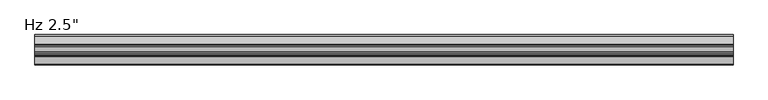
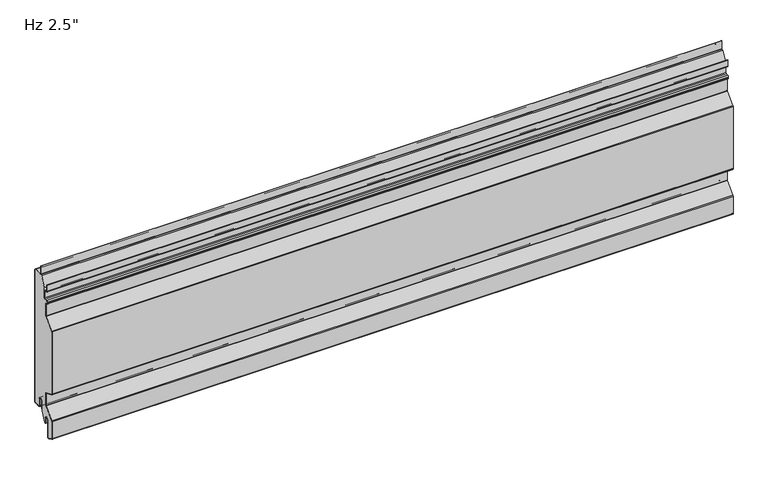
"""IFC4 building model written with IfcOpenShell, lengths in millimetres: plate geometry."""

from ifc_helpers import new_model, si_unit, point, frame, frame_2d, origin, place, context, project, spatial, polyline, circle_curve, trimmed, segment, composite_curve, outline, extrude, source, transform, mapped, element, save


def plate_447e906d(model_context):
    return source(origin(), model_context, "Body", "SweptSolid", [
        extrude(outline(composite_curve([segment(polyline([(-26.4011912, 19.05), (-26.4011912, -3.1976612), (-36.533822, -23.01875), (-38.6886912, -23.01875), (-38.6886912, -11.90625)]), True, "CONTINUOUS"), segment(trimmed(circle_curve(frame_2d((-43.6574412, -11.90625)), 4.96875), [point((-38.6886912, -11.90625))], [point((-48.6261912, -11.90625))], True, "CARTESIAN"), True, "CONTINUOUS"), segment(polyline([(-48.6261912, -11.90625), (-48.6261912, -48.8194049)]), True, "CONTINUOUS"), segment(trimmed(circle_curve(frame_2d((-50.0074412, -48.8194049)), 1.38125), [point((-48.6261912, -48.8194049))], [point((-50.5666208, -50.0824052))], False, "CARTESIAN"), True, "CONTINUOUS"), segment(polyline([(-50.5666208, -50.0824052), (-61.6779296, -45.1629946)]), True, "CONTINUOUS"), segment(trimmed(circle_curve(frame_2d((-61.11875, -43.8999943)), 1.38125), [point((-61.6779296, -45.1629946))], [point((-62.5, -43.8999943))], False, "CARTESIAN"), True, "CONTINUOUS"), segment(polyline([(-62.5, -43.8999943), (-62.5, -5.0536946)]), True, "CONTINUOUS"), segment(trimmed(circle_curve(frame_2d((-60.4012, -5.0536946)), 2.0988), [point((-62.5, -5.0536946))], [point((-61.9092077, -3.5939431))], False, "CARTESIAN"), True, "CONTINUOUS"), segment(polyline([(-61.9092077, -3.5939431), (-41.7145567, 17.2682996)]), True, "CONTINUOUS"), segment(trimmed(circle_curve(frame_2d((-43.5737, 19.0679503)), 2.5875), [point((-41.7145567, 17.2682996))], [point((-40.9862, 19.0679503))], True, "CARTESIAN"), True, "CONTINUOUS"), segment(polyline([(-40.9862, 19.0679503), (-40.9862, 45.5917981)]), True, "CONTINUOUS"), segment(trimmed(circle_curve(frame_2d((-43.5737, 45.5917981)), 2.5875), [point((-40.9862, 45.5917981))], [point((-42.5261871, 47.9577806))], True, "CARTESIAN"), True, "CONTINUOUS"), segment(polyline([(-42.5261871, 47.9577806), (-61.6779296, 56.4370054)]), True, "CONTINUOUS"), segment(trimmed(circle_curve(frame_2d((-61.11875, 57.7000057)), 1.38125), [point((-61.6779296, 56.4370054))], [point((-62.5, 57.7000057))], False, "CARTESIAN"), True, "CONTINUOUS"), segment(polyline([(-62.5, 57.7000057), (-62.5, 198.4367131)]), True, "CONTINUOUS"), segment(trimmed(circle_curve(frame_2d((-61.11875, 198.4367131)), 1.38125), [point((-62.5, 198.4367131))], [point((-62.1111912, 199.3973962))], False, "CARTESIAN"), True, "CONTINUOUS"), segment(polyline([(-62.1111912, 199.3973962), (-41.7145567, 220.4682996)]), True, "CONTINUOUS"), segment(trimmed(circle_curve(frame_2d((-43.5737, 222.2679503)), 2.5875), [point((-41.7145567, 220.4682996))], [point((-40.9862, 222.2679503))], True, "CARTESIAN"), True, "CONTINUOUS"), segment(polyline([(-40.9862, 222.2679503), (-40.9862, 248.7917981)]), True, "CONTINUOUS"), segment(trimmed(circle_curve(frame_2d((-43.5737, 248.7917981)), 2.5875), [point((-40.9862, 248.7917981))], [point((-42.5261871, 251.1577806))], True, "CARTESIAN"), True, "CONTINUOUS"), segment(polyline([(-42.5261871, 251.1577806), (-44.2166208, 251.9062016)]), True, "CONTINUOUS"), segment(trimmed(circle_curve(frame_2d((-43.6574412, 253.1692019)), 1.38125), [point((-44.2166208, 251.9062016))], [point((-45.0386912, 253.1692019))], False, "CARTESIAN"), True, "CONTINUOUS"), segment(polyline([(-45.0386912, 253.1692019), (-45.0386912, 255.4967085)]), True, "CONTINUOUS"), segment(trimmed(circle_curve(frame_2d((-43.6574412, 255.4967085)), 1.38125), [point((-45.0386912, 255.4967085))], [point((-43.7297302, 256.8760655))], False, "CARTESIAN"), True, "CONTINUOUS"), segment(polyline([(-43.7297302, 256.8760655), (-37.9657719, 257.1781418)]), True, "CONTINUOUS"), segment(trimmed(circle_curve(frame_2d((-38.1011912, 259.7620957)), 2.5875), [point((-37.9657719, 257.1781418))], [point((-35.5136912, 259.7620957))], True, "CARTESIAN"), True, "CONTINUOUS"), segment(polyline([(-35.5136912, 259.7620957), (-35.5136912, 282.1892934), (-24.8719682, 303.00625), (-2.3824412, 303.00625)]), True, "CONTINUOUS"), segment(trimmed(circle_curve(frame_2d((-2.3824412, 301.625)), 1.38125), [point((-2.3824412, 303.00625))], [point((-1.0011912, 301.625))], False, "CARTESIAN"), True, "CONTINUOUS"), segment(polyline([(-1.0011912, 301.625), (-1.0011912, 3.175)]), True, "CONTINUOUS"), segment(trimmed(circle_curve(frame_2d((-2.3824412, 3.175)), 1.38125), [point((-1.0011912, 3.175))], [point((-2.3824412, 1.79375))], False, "CARTESIAN"), True, "CONTINUOUS"), segment(polyline([(-2.3824412, 1.79375), (-15.0824412, 1.79375)]), True, "CONTINUOUS"), segment(trimmed(circle_curve(frame_2d((-15.0824412, 3.175)), 1.38125), [point((-15.0824412, 1.79375))], [point((-16.4636912, 3.175))], False, "CARTESIAN"), True, "CONTINUOUS"), segment(polyline([(-16.4636912, 3.175), (-16.4636912, 19.05)]), True, "CONTINUOUS"), segment(trimmed(circle_curve(frame_2d((-21.4324412, 19.05)), 4.96875), [point((-16.4636912, 19.05))], [point((-26.4011912, 19.05))], True, "CARTESIAN"), True, "CONTINUOUS")], self_intersect=False)), frame((-730.0, 0.0, 0.0), z_axis=(1.0, 0.0, 0.0), x_axis=(0.0, 1.0, 0.0)), (0.0, 0.0, 1.0), 1460.0),
        extrude(outline(composite_curve([segment(polyline([(-25.4, 0.79375), (-26.4, 0.79375), (-26.4, 19.05)]), True, "CONTINUOUS"), segment(trimmed(circle_curve(frame_2d((-21.43125, 19.05)), 4.96875), [point((-26.4, 19.05))], [point((-16.4625, 19.05))], False, "CARTESIAN"), True, "CONTINUOUS"), segment(polyline([(-16.4625, 19.05), (-16.4625, 3.175)]), True, "CONTINUOUS"), segment(trimmed(circle_curve(frame_2d((-15.08125, 3.175)), 1.38125), [point((-16.4625, 3.175))], [point((-15.08125, 1.79375))], True, "CARTESIAN"), True, "CONTINUOUS"), segment(polyline([(-15.08125, 1.79375), (-2.38125, 1.79375)]), True, "CONTINUOUS"), segment(trimmed(circle_curve(frame_2d((-2.38125, 3.175)), 1.38125), [point((-2.38125, 1.79375))], [point((-1.0, 3.175))], True, "CARTESIAN"), True, "CONTINUOUS"), segment(polyline([(-1.0, 3.175), (-1.0, 301.625)]), True, "CONTINUOUS"), segment(trimmed(circle_curve(frame_2d((-2.38125, 301.625)), 1.38125), [point((-1.0, 301.625))], [point((-2.38125, 303.00625))], True, "CARTESIAN"), True, "CONTINUOUS"), segment(polyline([(-2.38125, 303.00625), (-19.446875, 303.00625)]), True, "CONTINUOUS"), segment(trimmed(circle_curve(frame_2d((-19.446875, 305.59375)), 2.5875), [point((-19.446875, 303.00625))], [point((-22.034375, 305.59375))], False, "CARTESIAN"), True, "CONTINUOUS"), segment(polyline([(-22.034375, 305.59375), (-22.034375, 323.05625), (-21.034375, 323.05625), (-21.034375, 305.59375)]), True, "CONTINUOUS"), segment(trimmed(circle_curve(frame_2d((-19.446875, 305.59375)), 1.5875), [point((-21.034375, 305.59375))], [point((-19.446875, 304.00625))], True, "CARTESIAN"), True, "CONTINUOUS"), segment(polyline([(-19.446875, 304.00625), (-2.38125, 304.00625)]), True, "CONTINUOUS"), segment(trimmed(circle_curve(frame_2d((-2.38125, 301.625)), 2.38125), [point((-2.38125, 304.00625))], [point((0.0, 301.625))], False, "CARTESIAN"), True, "CONTINUOUS"), segment(polyline([(0.0, 301.625), (0.0, 3.175)]), True, "CONTINUOUS"), segment(trimmed(circle_curve(frame_2d((-2.38125, 3.175)), 2.38125), [point((0.0, 3.175))], [point((-2.38125, 0.79375))], False, "CARTESIAN"), True, "CONTINUOUS"), segment(polyline([(-2.38125, 0.79375), (-15.08125, 0.79375)]), True, "CONTINUOUS"), segment(trimmed(circle_curve(frame_2d((-15.08125, 3.175)), 2.38125), [point((-15.08125, 0.79375))], [point((-17.4625, 3.175))], False, "CARTESIAN"), True, "CONTINUOUS"), segment(polyline([(-17.4625, 3.175), (-17.4625, 19.05)]), True, "CONTINUOUS"), segment(trimmed(circle_curve(frame_2d((-21.43125, 19.05)), 3.96875), [point((-17.4625, 19.05))], [point((-25.4, 19.05))], True, "CARTESIAN"), True, "CONTINUOUS"), segment(polyline([(-25.4, 19.05), (-25.4, 0.79375)]), True, "CONTINUOUS")], self_intersect=False)), frame((-730.0, 0.0, 0.0), z_axis=(1.0, 0.0, 0.0), x_axis=(0.0, 1.0, 0.0)), (0.0, 0.0, 1.0), 1460.0),
        extrude(outline(composite_curve([segment(polyline([(-47.6261912, -11.90625), (-47.6261912, -48.8194049)]), True, "CONTINUOUS"), segment(trimmed(circle_curve(frame_2d((-50.0074412, -48.8194049)), 2.38125), [point((-47.6261912, -48.8194049))], [point((-50.9714567, -50.9967946))], False, "CARTESIAN"), True, "CONTINUOUS"), segment(polyline([(-50.9714567, -50.9967946), (-62.0827655, -46.0773839)]), True, "CONTINUOUS"), segment(trimmed(circle_curve(frame_2d((-61.11875, -43.8999943)), 2.38125), [point((-62.0827655, -46.0773839))], [point((-63.5, -43.8999943))], False, "CARTESIAN"), True, "CONTINUOUS"), segment(polyline([(-63.5, -43.8999943), (-63.5, -5.0536946)]), True, "CONTINUOUS"), segment(trimmed(circle_curve(frame_2d((-60.4012, -5.0536946)), 3.0988), [point((-63.5, -5.0536946))], [point((-62.6277172, -2.8984259))], False, "CARTESIAN"), True, "CONTINUOUS"), segment(polyline([(-62.6277172, -2.8984259), (-42.4330662, 17.9638168)]), True, "CONTINUOUS"), segment(trimmed(circle_curve(frame_2d((-43.5737, 19.0679503)), 1.5875), [point((-42.4330662, 17.9638168))], [point((-41.9862, 19.0679503))], True, "CARTESIAN"), True, "CONTINUOUS"), segment(polyline([(-41.9862, 19.0679503), (-41.9862, 45.5917981)]), True, "CONTINUOUS"), segment(trimmed(circle_curve(frame_2d((-43.5737, 45.5917981)), 1.5875), [point((-41.9862, 45.5917981))], [point((-42.931023, 47.0433912))], True, "CARTESIAN"), True, "CONTINUOUS"), segment(polyline([(-42.931023, 47.0433912), (-62.0827655, 55.5226161)]), True, "CONTINUOUS"), segment(trimmed(circle_curve(frame_2d((-61.11875, 57.7000057)), 2.38125), [point((-62.0827655, 55.5226161))], [point((-63.5, 57.7000057))], False, "CARTESIAN"), True, "CONTINUOUS"), segment(polyline([(-63.5, 57.7000057), (-63.5, 198.4367131)]), True, "CONTINUOUS"), segment(trimmed(circle_curve(frame_2d((-61.11875, 198.4367131)), 2.38125), [point((-63.5, 198.4367131))], [point((-62.8297007, 200.0929134))], False, "CARTESIAN"), True, "CONTINUOUS"), segment(polyline([(-62.8297007, 200.0929134), (-42.4330662, 221.1638168)]), True, "CONTINUOUS"), segment(trimmed(circle_curve(frame_2d((-43.5737, 222.2679503)), 1.5875), [point((-42.4330662, 221.1638168))], [point((-41.9862, 222.2679503))], True, "CARTESIAN"), True, "CONTINUOUS"), segment(polyline([(-41.9862, 222.2679503), (-41.9862, 248.7917981)]), True, "CONTINUOUS"), segment(trimmed(circle_curve(frame_2d((-43.5737, 248.7917981)), 1.5875), [point((-41.9862, 248.7917981))], [point((-42.931023, 250.2433912))], True, "CARTESIAN"), True, "CONTINUOUS"), segment(polyline([(-42.931023, 250.2433912), (-44.6214567, 250.9918123)]), True, "CONTINUOUS"), segment(trimmed(circle_curve(frame_2d((-43.6574412, 253.1692019)), 2.38125), [point((-44.6214567, 250.9918123))], [point((-46.0386912, 253.1692019))], False, "CARTESIAN"), True, "CONTINUOUS"), segment(polyline([(-46.0386912, 253.1692019), (-46.0386912, 255.4967085)]), True, "CONTINUOUS"), segment(trimmed(circle_curve(frame_2d((-43.6574412, 255.4967085)), 2.38125), [point((-46.0386912, 255.4967085))], [point((-43.7820662, 257.8746951))], False, "CARTESIAN"), True, "CONTINUOUS"), segment(polyline([(-43.7820662, 257.8746951), (-38.0181078, 258.1767713)]), True, "CONTINUOUS"), segment(trimmed(circle_curve(frame_2d((-38.1011912, 259.7620957)), 1.5875), [point((-38.0181078, 258.1767713))], [point((-36.5136912, 259.7620957))], True, "CARTESIAN"), True, "CONTINUOUS"), segment(polyline([(-36.5136912, 259.7620957), (-36.5136912, 274.6375)]), True, "CONTINUOUS"), segment(trimmed(circle_curve(frame_2d((-38.1011912, 274.6375)), 1.5875), [point((-36.5136912, 274.6375))], [point((-38.1011912, 276.225))], True, "CARTESIAN"), True, "CONTINUOUS"), segment(polyline([(-38.1011912, 276.225), (-41.6730662, 276.225)]), True, "CONTINUOUS"), segment(trimmed(circle_curve(frame_2d((-41.6730662, 278.60625)), 2.38125), [point((-41.6730662, 276.225))], [point((-44.0543162, 278.60625))], False, "CARTESIAN"), True, "CONTINUOUS"), segment(polyline([(-44.0543162, 278.60625), (-44.0543162, 292.89375), (-43.0543162, 292.89375), (-43.0543162, 278.60625)]), True, "CONTINUOUS"), segment(trimmed(circle_curve(frame_2d((-41.6730662, 278.60625)), 1.38125), [point((-43.0543162, 278.60625))], [point((-41.6730662, 277.225))], True, "CARTESIAN"), True, "CONTINUOUS"), segment(polyline([(-41.6730662, 277.225), (-38.1011912, 277.225)]), True, "CONTINUOUS"), segment(trimmed(circle_curve(frame_2d((-38.1011912, 274.6375)), 2.5875), [point((-38.1011912, 277.225))], [point((-35.5136912, 274.6375))], False, "CARTESIAN"), True, "CONTINUOUS"), segment(polyline([(-35.5136912, 274.6375), (-35.5136912, 259.7620957)]), True, "CONTINUOUS"), segment(trimmed(circle_curve(frame_2d((-38.1011912, 259.7620957)), 2.5875), [point((-35.5136912, 259.7620957))], [point((-37.9657719, 257.1781418))], False, "CARTESIAN"), True, "CONTINUOUS"), segment(polyline([(-37.9657719, 257.1781418), (-43.7297302, 256.8760655)]), True, "CONTINUOUS"), segment(trimmed(circle_curve(frame_2d((-43.6574412, 255.4967085)), 1.38125), [point((-43.7297302, 256.8760655))], [point((-45.0386912, 255.4967085))], True, "CARTESIAN"), True, "CONTINUOUS"), segment(polyline([(-45.0386912, 255.4967085), (-45.0386912, 253.1692019)]), True, "CONTINUOUS"), segment(trimmed(circle_curve(frame_2d((-43.6574412, 253.1692019)), 1.38125), [point((-45.0386912, 253.1692019))], [point((-44.2166208, 251.9062016))], True, "CARTESIAN"), True, "CONTINUOUS"), segment(polyline([(-44.2166208, 251.9062016), (-42.5261871, 251.1577806)]), True, "CONTINUOUS"), segment(trimmed(circle_curve(frame_2d((-43.5737, 248.7917981)), 2.5875), [point((-42.5261871, 251.1577806))], [point((-40.9862, 248.7917981))], False, "CARTESIAN"), True, "CONTINUOUS"), segment(polyline([(-40.9862, 248.7917981), (-40.9862, 222.2679503)]), True, "CONTINUOUS"), segment(trimmed(circle_curve(frame_2d((-43.5737, 222.2679503)), 2.5875), [point((-40.9862, 222.2679503))], [point((-41.7145567, 220.4682996))], False, "CARTESIAN"), True, "CONTINUOUS"), segment(polyline([(-41.7145567, 220.4682996), (-62.1111912, 199.3973962)]), True, "CONTINUOUS"), segment(trimmed(circle_curve(frame_2d((-61.11875, 198.4367131)), 1.38125), [point((-62.1111912, 199.3973962))], [point((-62.5, 198.4367131))], True, "CARTESIAN"), True, "CONTINUOUS"), segment(polyline([(-62.5, 198.4367131), (-62.5, 57.7000057)]), True, "CONTINUOUS"), segment(trimmed(circle_curve(frame_2d((-61.11875, 57.7000057)), 1.38125), [point((-62.5, 57.7000057))], [point((-61.6779296, 56.4370054))], True, "CARTESIAN"), True, "CONTINUOUS"), segment(polyline([(-61.6779296, 56.4370054), (-42.5261871, 47.9577806)]), True, "CONTINUOUS"), segment(trimmed(circle_curve(frame_2d((-43.5737, 45.5917981)), 2.5875), [point((-42.5261871, 47.9577806))], [point((-40.9862, 45.5917981))], False, "CARTESIAN"), True, "CONTINUOUS"), segment(polyline([(-40.9862, 45.5917981), (-40.9862, 19.0679503)]), True, "CONTINUOUS"), segment(trimmed(circle_curve(frame_2d((-43.5737, 19.0679503)), 2.5875), [point((-40.9862, 19.0679503))], [point((-41.7145567, 17.2682996))], False, "CARTESIAN"), True, "CONTINUOUS"), segment(polyline([(-41.7145567, 17.2682996), (-61.9092077, -3.5939431)]), True, "CONTINUOUS"), segment(trimmed(circle_curve(frame_2d((-60.4012, -5.0536946)), 2.0988), [point((-61.9092077, -3.5939431))], [point((-62.5, -5.0536946))], True, "CARTESIAN"), True, "CONTINUOUS"), segment(polyline([(-62.5, -5.0536946), (-62.5, -43.8999943)]), True, "CONTINUOUS"), segment(trimmed(circle_curve(frame_2d((-61.11875, -43.8999943)), 1.38125), [point((-62.5, -43.8999943))], [point((-61.6779296, -45.1629946))], True, "CARTESIAN"), True, "CONTINUOUS"), segment(polyline([(-61.6779296, -45.1629946), (-50.5666208, -50.0824052)]), True, "CONTINUOUS"), segment(trimmed(circle_curve(frame_2d((-50.0074412, -48.8194049)), 1.38125), [point((-50.5666208, -50.0824052))], [point((-48.6261912, -48.8194049))], True, "CARTESIAN"), True, "CONTINUOUS"), segment(polyline([(-48.6261912, -48.8194049), (-48.6261912, -11.90625)]), True, "CONTINUOUS"), segment(trimmed(circle_curve(frame_2d((-43.6574412, -11.90625)), 4.96875), [point((-48.6261912, -11.90625))], [point((-38.6886912, -11.90625))], False, "CARTESIAN"), True, "CONTINUOUS"), segment(polyline([(-38.6886912, -11.90625), (-38.6886912, -23.01875), (-39.6886912, -23.01875), (-39.6886912, -11.90625)]), True, "CONTINUOUS"), segment(trimmed(circle_curve(frame_2d((-43.6574412, -11.90625)), 3.96875), [point((-39.6886912, -11.90625))], [point((-47.6261912, -11.90625))], True, "CARTESIAN"), True, "CONTINUOUS")], self_intersect=False)), frame((-730.0, 0.0, 0.0), z_axis=(1.0, 0.0, 0.0), x_axis=(0.0, 1.0, 0.0)), (0.0, 0.0, 1.0), 1460.0),
    ])


if __name__ == "__main__":
    model = new_model("IFC4")
    model_context = context("Model", 3, world=origin())
    ifc_project = project(units=[si_unit("LENGTHUNIT", "METRE", prefix="MILLI")], contexts=[model_context])
    site = spatial("IfcSite", under=ifc_project)
    building = spatial("IfcBuilding", under=site)
    placement = place(None, origin())
    plate_shape = plate_447e906d(model_context)
    element("IfcPlate", 1, ObjectType="KIP-12-DWR-R19-CP-Hz-A : Hz 2.5\"", at=placement, inside=building, context=model_context, shape_type="MappedRepresentation", body=[
        mapped(plate_shape, transform((0.0, 0.0, 0.0), x_axis=(1.0, 0.0, 0.0), y_axis=(0.0, 1.0, 0.0), z_axis=(0.0, 0.0, 1.0))),
    ])
    save(model, "model.ifc")
